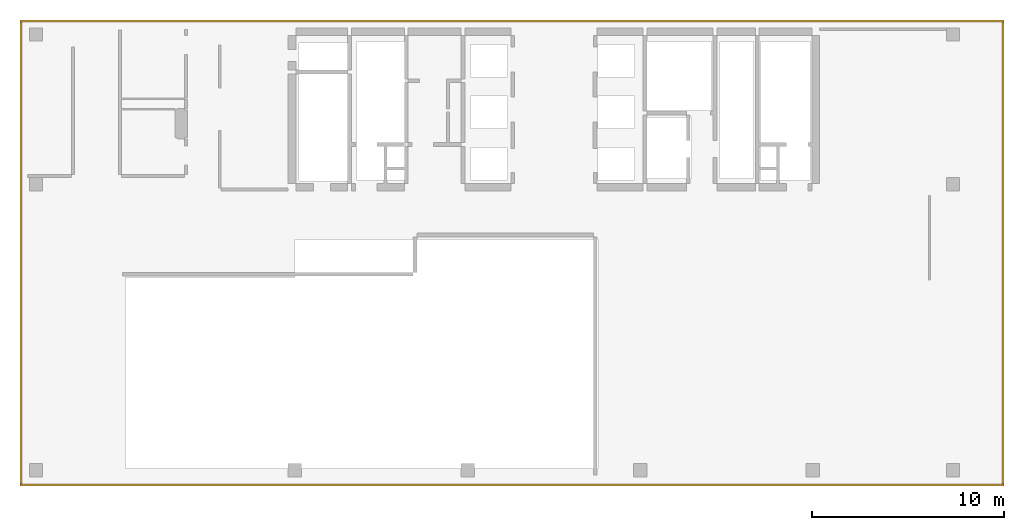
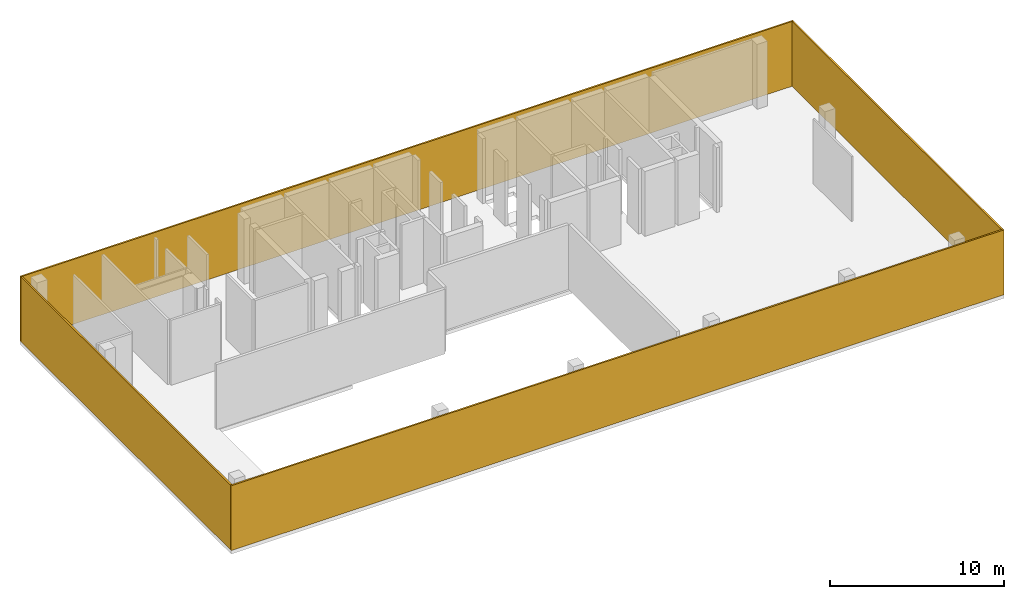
# One storey, part 3 of 3: 4 curtain walls.
"""IFC4 building model written with IfcOpenShell, lengths in millimetres."""

from ifc_helpers import new_model, si_unit, frame, origin, place, context, project, spatial, triangles, element, save


model = new_model("IFC4")

# Units and contexts
model_context = context("Model", 3, precision=0.001, world=origin())
ifc_project = project(units=[si_unit("LENGTHUNIT", "METRE", prefix="MILLI"), si_unit("AREAUNIT", "SQUARE_METRE"), si_unit("VOLUMEUNIT", "CUBIC_METRE")], contexts=[model_context])

# Site, building, storey
site_placement = place(None, origin())
site = spatial("IfcSite", under=ifc_project, at=site_placement, Name="Site", CompositionType="ELEMENT")
building_placement = place(site_placement, origin())
building = spatial("IfcBuilding", under=site, at=building_placement, Name="INNOCEAN", CompositionType="ELEMENT")
storey_placement = place(building_placement, frame((0.0, 0.0, 25400.0)))
storey = spatial("IfcBuildingStorey", under=building, at=storey_placement, Name="F06", CompositionType="ELEMENT", Elevation=25400.0)

# Curtain walls
curtain_wall_1_placement = place(storey_placement, origin())
element("IfcCurtainWall", 1, at=curtain_wall_1_placement, inside=storey, Name="F06_Facade_F06_001", context=model_context, shape_type="Tessellation", body=[
    triangles([(50420.3187250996, 25825.974025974, 0.0), (-846.215139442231, 25825.974025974, 0.0), (-846.215139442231, 25825.974025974, 4550.0), (50420.3187250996, 25825.974025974, 4550.0), (50420.3187250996, 25720.1298701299, 4550.0), (50420.3187250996, 25720.1298701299, 0.0), (-846.215139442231, 25720.1298701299, 0.0), (-846.215139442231, 25720.1298701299, 4550.0)], [[1, 2, 3], [1, 3, 4], [1, 4, 5], [6, 1, 5], [7, 6, 5], [7, 5, 8], [7, 8, 3], [2, 7, 3], [2, 1, 6], [2, 6, 7], [4, 3, 5], [5, 3, 8]], closed=True),
])
curtain_wall_2_placement = place(storey_placement, origin())
element("IfcCurtainWall", 2, at=curtain_wall_2_placement, inside=storey, Name="F06_Facade_F06_002", context=model_context, shape_type="Tessellation", body=[
    triangles([(50420.3187250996, 1658.22510822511, 0.0), (-846.215139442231, 1658.22510822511, 0.0), (-846.215139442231, 1658.22510822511, 4550.0), (50420.3187250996, 1658.22510822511, 4550.0), (50420.3187250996, 1552.38095238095, 4550.0), (50420.3187250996, 1552.38095238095, 0.0), (-846.215139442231, 1552.38095238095, 0.0), (-846.215139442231, 1552.38095238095, 4550.0)], [[1, 2, 3], [1, 3, 4], [1, 4, 5], [6, 1, 5], [7, 6, 5], [7, 5, 8], [7, 8, 3], [2, 7, 3], [2, 1, 6], [2, 6, 7], [4, 3, 5], [5, 3, 8]], closed=True),
])
curtain_wall_3_placement = place(storey_placement, origin())
element("IfcCurtainWall", 3, at=curtain_wall_3_placement, inside=storey, Name="F06_Facade_F06_003", context=model_context, shape_type="Tessellation", body=[
    triangles([(-740.438247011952, 25720.1298701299, 0.0), (-846.215139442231, 25720.1298701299, 0.0), (-846.215139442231, 25720.1298701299, 4550.0), (-740.438247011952, 25720.1298701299, 4550.0), (-740.438247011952, 1658.22510822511, 0.0), (-740.438247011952, 1658.22510822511, 4550.0), (-846.215139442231, 1658.22510822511, 0.0), (-846.215139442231, 1658.22510822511, 4550.0)], [[1, 2, 3], [1, 3, 4], [5, 1, 4], [5, 4, 6], [7, 5, 6], [7, 6, 8], [2, 7, 8], [2, 8, 3], [2, 1, 5], [2, 5, 7], [4, 3, 6], [6, 3, 8]], closed=True),
])
curtain_wall_4_placement = place(storey_placement, origin())
element("IfcCurtainWall", 4, at=curtain_wall_4_placement, inside=storey, Name="F06_Facade_F06_004", context=model_context, shape_type="Tessellation", body=[
    triangles([(50314.5418326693, 25720.1298701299, 0.0), (50314.5418326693, 25720.1298701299, 4550.0), (50420.3187250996, 25720.1298701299, 4550.0), (50420.3187250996, 25720.1298701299, 0.0), (50420.3187250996, 1658.22510822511, 0.0), (50420.3187250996, 1658.22510822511, 4550.0), (50314.5418326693, 1658.22510822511, 4550.0), (50314.5418326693, 1658.22510822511, 0.0)], [[1, 2, 3], [4, 1, 3], [5, 4, 3], [5, 3, 6], [5, 6, 7], [8, 5, 7], [1, 8, 7], [1, 7, 2], [1, 4, 5], [1, 5, 8], [3, 2, 6], [6, 2, 7]], closed=True),
])

save(model, "model.ifc")
